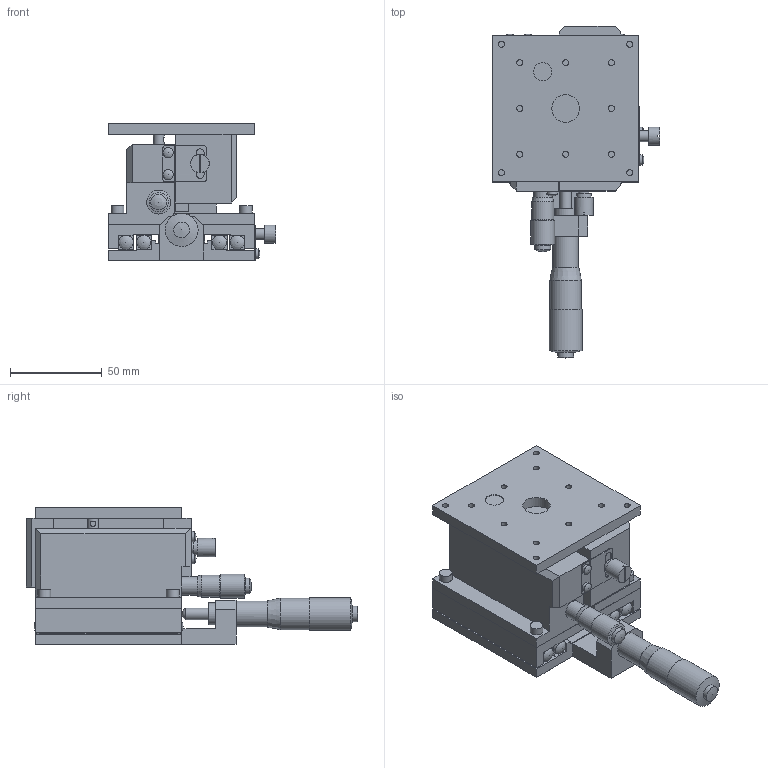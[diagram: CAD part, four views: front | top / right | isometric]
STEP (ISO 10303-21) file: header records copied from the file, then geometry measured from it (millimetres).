
FILE_DESCRIPTION( ( 'STEP AP203' ), '1' );
FILE_NAME( 'C:/3D-Trans/3D_B63-80A+090217.step', '2009-02-26T05:58:13', ( ' ' ), ( ' ' ), 'XStep 1.0', ' ', ' ' );
FILE_SCHEMA( ( 'CONFIG_CONTROL_DESIGN' ) );
Length unit declared in the file: millimetre
Products named in the file (7): 1; 2; 3; 4; 5; 6; 7
Bounding box: 91.3 x 181 x 75 mm (x, y, z)
Volume: 363771.6 mm3; surface area: 116219 mm2
Topology: 7 solids, 8 shells, 409 faces, 1040 edges, 686 vertices
Faces by surface type: plane 255, cylinder 122, sphere 17, cone 15
Full cylindrical faces by diameter (mm): 2 x4, 2.2 x2, 3 x10, 3.3 x24, 3.5 x2, 4 x1, 4.5 x4, 5 x4, 5.6 x4, 6 x3, 6.35 x2, 7 x4, 7.5 x1, 7.8 x8, 8 x9, 8.6 x2, 9 x1, 9.5 x1, 10 x6, 10.5 x1, 12 x3, 13 x1, 14 x1, 15 x2, 16.8 x1, 17.2 x1, 18 x1, 20 x1
Entity records: 11645 total; most frequent: CARTESIAN_POINT 2231, DIRECTION 1894, ORIENTED_EDGE 1626, EDGE_CURVE 813, AXIS2_PLACEMENT_3D 677, EDGE_LOOP 652, VERTEX_POINT 603, LINE 540
